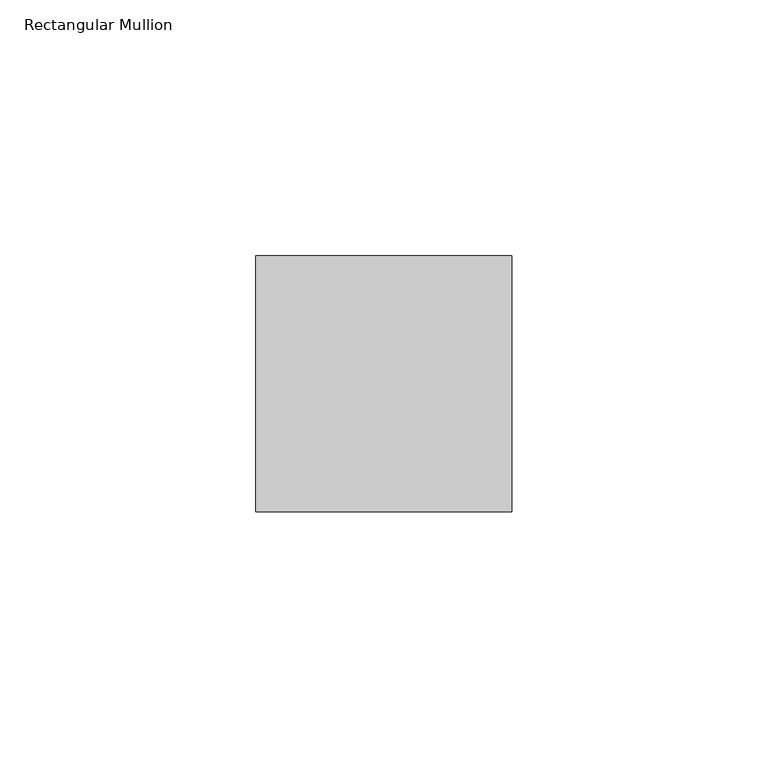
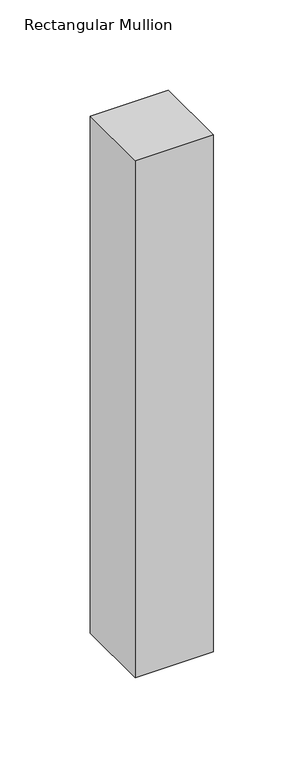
"""IFC4 building model written with IfcOpenShell, lengths in millimetres: member geometry, Rectangular Mullion : RSen_21_CWM_support profile 50x50 - left_gen_duco projects."""

from ifc_helpers import new_model, si_unit, frame, origin, place, context, project, spatial, polyline, outline, extrude, source, transform, mapped, element, save


def rectangular_mullion_795f5a7c(model_context):
    return source(origin(), model_context, "Body", "SweptSolid", [
        extrude(outline(polyline([(0.0, 1.0), (0.0, -49.0), (-50.0, -49.0), (-50.0, 1.0), (0.0, 1.0)])), frame((0.0, 0.0, -350.0), z_axis=(0.0, 0.0, 1.0), x_axis=(1.0, 0.0, 0.0)), (0.0, 0.0, 1.0), 350.0),
    ])


if __name__ == "__main__":
    model = new_model("IFC4")
    model_context = context("Model", 3, world=origin())
    ifc_project = project(units=[si_unit("LENGTHUNIT", "METRE", prefix="MILLI")], contexts=[model_context])
    site = spatial("IfcSite", under=ifc_project)
    building = spatial("IfcBuilding", under=site)
    placement = place(None, origin())
    rectangular_mullion_shape = rectangular_mullion_795f5a7c(model_context)
    element("IfcMember", 1, ObjectType="Rectangular Mullion : RSen_21_CWM_support profile 50x50 - left_gen_duco projects", at=placement, inside=building, context=model_context, shape_type="MappedRepresentation", body=[
        mapped(rectangular_mullion_shape, transform((0.0, 0.0, 0.0), x_axis=(1.0, 0.0, 0.0), y_axis=(0.0, 1.0, 0.0), z_axis=(0.0, 0.0, 1.0))),
    ])
    save(model, "model.ifc")
